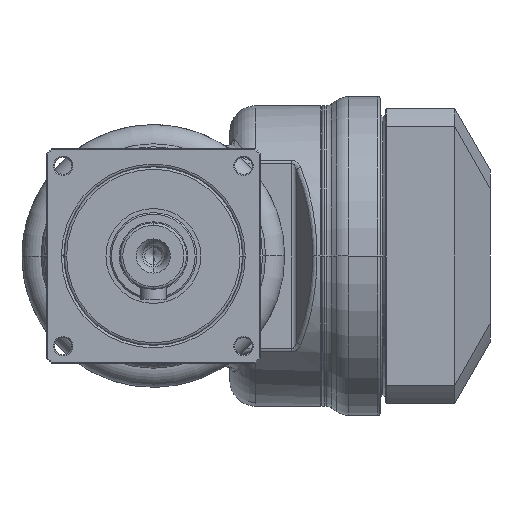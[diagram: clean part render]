
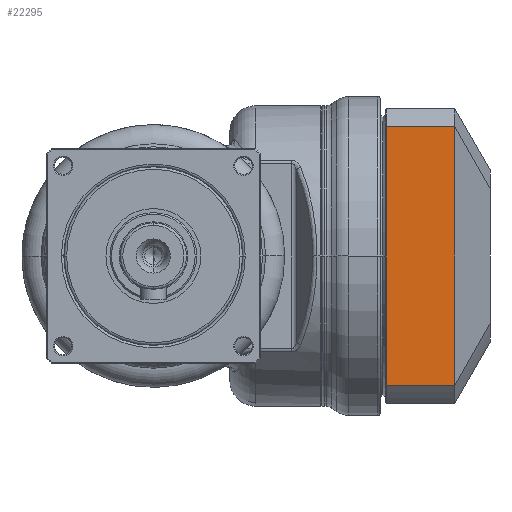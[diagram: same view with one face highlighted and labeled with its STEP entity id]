
A CAD part, left-side view. The second image highlights one B-rep face of the part: STEP entity #22295.
In plain terms, the highlighted planar face has unit normal (-1, 0, 0) as drawn and (0, -1, 0) by its records, which use the part's own axes.
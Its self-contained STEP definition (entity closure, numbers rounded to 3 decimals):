
#20952=DIRECTION('',(1.,0.,0.));
#20953=VECTOR('',#20952,50.646);
#20954=CARTESIAN_POINT('',(-25.323,-29.,15.572));
#20955=LINE('',#20954,#20953);
#20956=DIRECTION('',(0.,0.,1.));
#20957=VECTOR('',#20956,13.372);
#20958=CARTESIAN_POINT('',(25.323,-29.,
2.2));
#20959=LINE('',#20958,#20957);
#20960=DIRECTION('',(1.,0.,0.));
#20961=VECTOR('',#20960,50.646);
#20962=CARTESIAN_POINT('',(-25.323,-29.,
2.2));
#20963=LINE('',#20962,#20961);
#20964=DIRECTION('',(0.,0.,1.));
#20965=VECTOR('',#20964,13.372);
#20966=CARTESIAN_POINT('',(-25.323,-29.,
2.2));
#20967=LINE('',#20966,#20965);
#20973=CARTESIAN_POINT('',(25.323,-29.,15.572));
#21130=CARTESIAN_POINT('',(-25.323,-29.,2.2));
#21132=VERTEX_POINT('',#21130);
#21135=CARTESIAN_POINT('',(25.323,-29.,
2.2));
#21136=VERTEX_POINT('',#21135);
#21182=CARTESIAN_POINT('',(-25.323,-29.,15.572));
#21184=VERTEX_POINT('',#21182);
#21192=VERTEX_POINT('',#20973);
#22283=CARTESIAN_POINT('',(-29.,-29.,0.));
#22284=DIRECTION('',(0.,-1.,0.));
#22285=DIRECTION('',(1.,0.,0.));
#22286=AXIS2_PLACEMENT_3D('',#22283,#22284,#22285);
#22287=PLANE('',#22286);
#22289=ORIENTED_EDGE('',*,*,#22288,.T.);
#22290=ORIENTED_EDGE('',*,*,#22199,.F.);
#22291=ORIENTED_EDGE('',*,*,#22277,.F.);
#22292=ORIENTED_EDGE('',*,*,#22210,.T.);
#22293=EDGE_LOOP('',(#22289,#22290,#22291,#22292));
#22294=FACE_OUTER_BOUND('',#22293,.F.);
#22295=ADVANCED_FACE('',(#22294),#22287,.T.);
#22199=EDGE_CURVE('',#21136,#21192,#20959,.T.);
#22210=EDGE_CURVE('',#21132,#21184,#20967,.T.);
#22277=EDGE_CURVE('',#21132,#21136,#20963,.T.);
#22288=EDGE_CURVE('',#21184,#21192,#20955,.T.);
